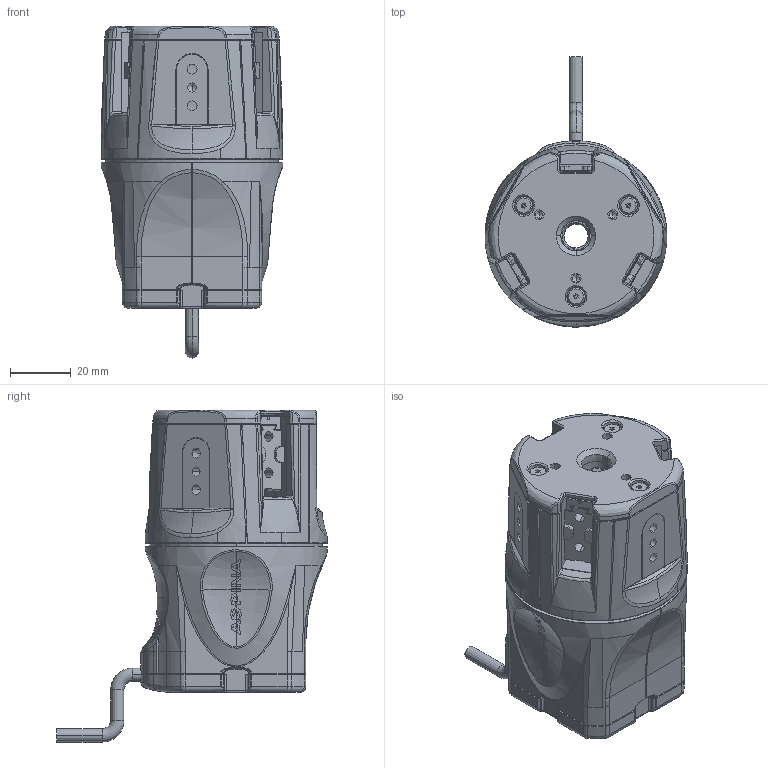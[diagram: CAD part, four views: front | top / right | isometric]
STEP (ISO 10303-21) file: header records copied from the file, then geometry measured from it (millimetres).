
FILE_DESCRIPTION (( 'STEP AP214' ), '1' );
FILE_NAME ('no_claw.STEP', '2021-01-15T02:18:42', ( '' ), ( '' ), 'SwSTEP 2.0', 'SolidWorks 2018', '' );
FILE_SCHEMA (( 'AUTOMOTIVE_DESIGN' ));
Length unit declared in the file: millimetre
Products named in the file (1): no_claw
Bounding box: 60.08 x 89.3 x 109.6 mm (x, y, z)
Volume: 200143.7 mm3; surface area: 62784.5 mm2
Topology: 1 solids, 65 shells, 3637 faces, 10270 edges, 6642 vertices
Faces by surface type: plane 1396, bspline 1169, cylinder 830, cone 152, torus 82, sphere 8
Entity records: 239919 total; most frequent: CARTESIAN_POINT 142769, ORIENTED_EDGE 20302, DIRECTION 11867, EDGE_CURVE 10151, VERTEX_POINT 6640, AXIS2_PLACEMENT_3D 4124, B_SPLINE_CURVE_WITH_KNOTS 4083, EDGE_LOOP 3735
